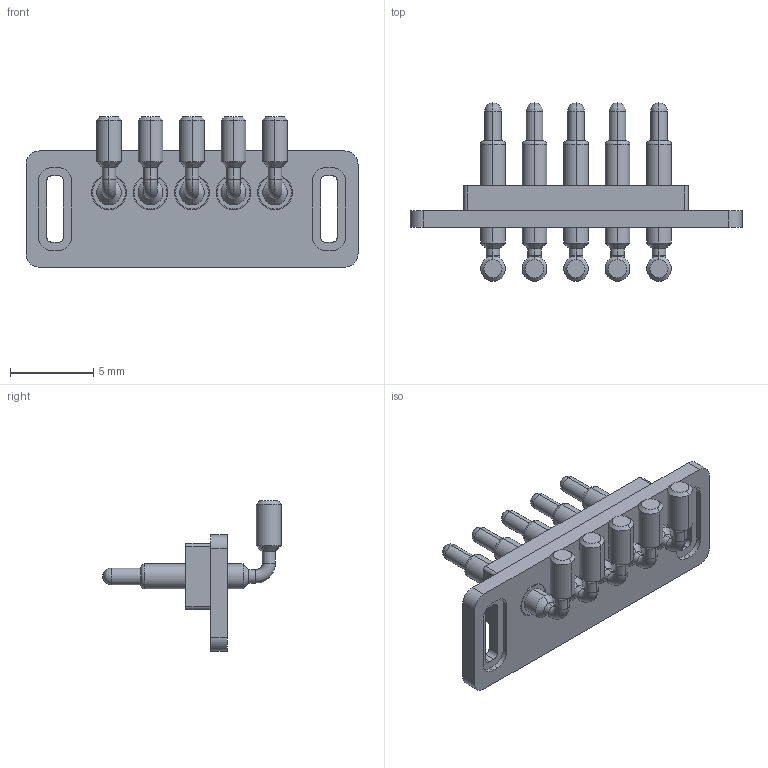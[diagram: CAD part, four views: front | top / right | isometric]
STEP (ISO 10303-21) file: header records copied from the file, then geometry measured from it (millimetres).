
FILE_DESCRIPTION((''),'2;1');
FILE_NAME('PRT0001','2022-05-25T16:20:06',('Administrator'),(''),'CREO PARAMETRIC BY PTC INC, 2018400','CREO PARAMETRIC BY PTC INC, 2018400','');
FILE_SCHEMA(('CONFIG_CONTROL_DESIGN'));
Length unit declared in the file: millimetre
Products named in the file (1): PRT0001
Bounding box: 20 x 10.75 x 9.05 mm (x, y, z)
Volume: 282 mm3; surface area: 645.1 mm2
Topology: 1 solids, 1 shells, 213 faces, 474 edges, 281 vertices
Faces by surface type: cylinder 104, plane 49, cone 30, torus 20, sphere 10
Entity records: 5882 total; most frequent: DIRECTION 1148, CARTESIAN_POINT 958, ORIENTED_EDGE 928, AXIS2_PLACEMENT_3D 471, EDGE_CURVE 464, VERTEX_POINT 281, CIRCLE 258, EDGE_LOOP 245
